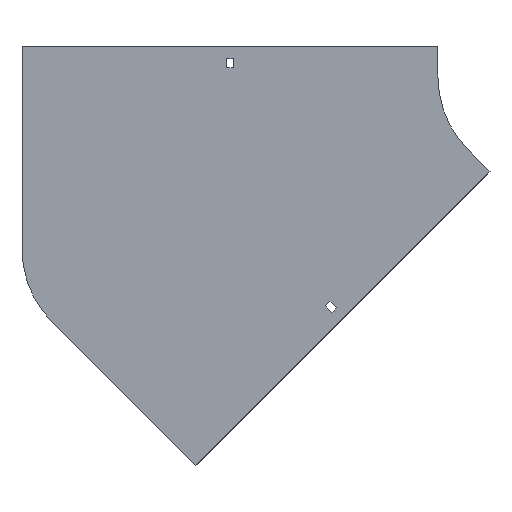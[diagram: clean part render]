
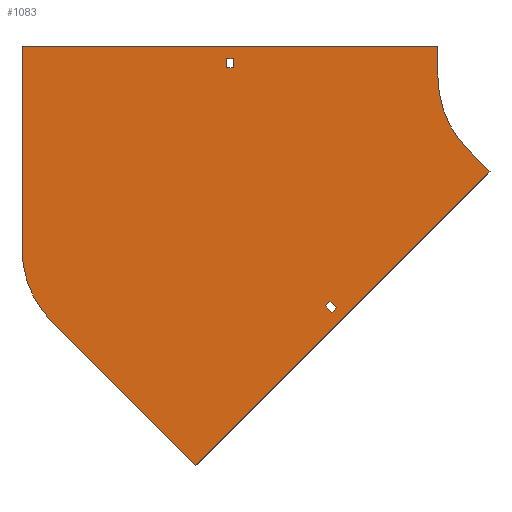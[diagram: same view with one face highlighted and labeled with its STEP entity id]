
A CAD part, front view. The second image highlights one B-rep face of the part: STEP entity #1083.
In plain terms, the highlighted planar face has unit normal (0, -1, 0).
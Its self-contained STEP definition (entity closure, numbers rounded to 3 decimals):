
#9 = CARTESIAN_POINT ( 'NONE',  ( -305.25, 0., 18. ) ) ;
#12 = VERTEX_POINT ( 'NONE', #264 ) ;
#24 = VECTOR ( 'NONE', #770, 1000. ) ;
#43 = LINE ( 'NONE', #1112, #1780 ) ;
#45 = ORIENTED_EDGE ( 'NONE', *, *, #1464, .F. ) ;
#53 = ORIENTED_EDGE ( 'NONE', *, *, #855, .F. ) ;
#58 = CARTESIAN_POINT ( 'NONE',  ( -335.169, 0., -377.595 ) ) ;
#99 = DIRECTION ( 'NONE',  ( 0., 0., -1. ) ) ;
#109 = CARTESIAN_POINT ( 'NONE',  ( -204.884, 0., -217.612 ) ) ;
#168 = ORIENTED_EDGE ( 'NONE', *, *, #1199, .T. ) ;
#192 = EDGE_CURVE ( 'NONE', #1694, #1567, #1197, .T. ) ;
#197 = VERTEX_POINT ( 'NONE', #329 ) ;
#206 = ORIENTED_EDGE ( 'NONE', *, *, #297, .F. ) ;
#213 = LINE ( 'NONE', #1110, #1499 ) ;
#215 = DIRECTION ( 'NONE',  ( 0.707, 0., 0.707 ) ) ;
#264 = CARTESIAN_POINT ( 'NONE',  ( -504., 0., -167.342 ) ) ;
#265 = EDGE_CURVE ( 'NONE', #1649, #490, #1089, .T. ) ;
#297 = EDGE_CURVE ( 'NONE', #12, #1429, #43, .T. ) ;
#306 = ORIENTED_EDGE ( 'NONE', *, *, #1239, .F. ) ;
#329 = CARTESIAN_POINT ( 'NONE',  ( -474.711, 0., -238.053 ) ) ;
#334 = EDGE_CURVE ( 'NONE', #1149, #1390, #1561, .T. ) ;
#336 = AXIS2_PLACEMENT_3D ( 'NONE', #1572, #1879, #99 ) ;
#357 = PLANE ( 'NONE',  #336 ) ;
#381 = ORIENTED_EDGE ( 'NONE', *, *, #1168, .F. ) ;
#389 = EDGE_CURVE ( 'NONE', #1618, #1338, #904, .T. ) ;
#479 = EDGE_CURVE ( 'NONE', #1627, #1108, #1234, .T. ) ;
#490 = VERTEX_POINT ( 'NONE', #1835 ) ;
#491 = VECTOR ( 'NONE', #1228, 1000. ) ;
#520 = EDGE_LOOP ( 'NONE', ( #1772, #206, #1206, #306, #679, #381, #53, #1564 ) ) ;
#524 = DIRECTION ( 'NONE',  ( 0., 0., -1. ) ) ;
#563 = AXIS2_PLACEMENT_3D ( 'NONE', #1014, #1612, #1640 ) ;
#564 = VECTOR ( 'NONE', #1488, 1000. ) ;
#587 = CIRCLE ( 'NONE', #563, 100. ) ;
#622 = DIRECTION ( 'NONE',  ( -1., 0., 0. ) ) ;
#648 = ORIENTED_EDGE ( 'NONE', *, *, #1711, .T. ) ;
#656 = CARTESIAN_POINT ( 'NONE',  ( -70.711, 0., -70.711 ) ) ;
#658 = VECTOR ( 'NONE', #622, 1000. ) ;
#672 = LINE ( 'NONE', #797, #1349 ) ;
#674 = FACE_OUTER_BOUND ( 'NONE', #520, .T. ) ;
#679 = ORIENTED_EDGE ( 'NONE', *, *, #479, .F. ) ;
#686 = CARTESIAN_POINT ( 'NONE',  ( -298.75, 0., 18. ) ) ;
#687 = VECTOR ( 'NONE', #1402, 1000. ) ;
#699 = EDGE_CURVE ( 'NONE', #1429, #1649, #1365, .T. ) ;
#770 = DIRECTION ( 'NONE',  ( 1., 0., 0. ) ) ;
#788 = DIRECTION ( 'NONE',  ( -0.707, 0., -0.707 ) ) ;
#790 = EDGE_LOOP ( 'NONE', ( #1220, #1345, #168, #648 ) ) ;
#797 = CARTESIAN_POINT ( 'NONE',  ( -204.884, 0., -217.612 ) ) ;
#801 = CARTESIAN_POINT ( 'NONE',  ( -504., 0., 30. ) ) ;
#834 = CARTESIAN_POINT ( 'NONE',  ( -305.25, 0., 9. ) ) ;
#854 = DIRECTION ( 'NONE',  ( 0., -1., 0. ) ) ;
#855 = EDGE_CURVE ( 'NONE', #490, #1937, #1528, .T. ) ;
#885 = EDGE_CURVE ( 'NONE', #197, #12, #587, .T. ) ;
#904 = LINE ( 'NONE', #1195, #1755 ) ;
#908 = CARTESIAN_POINT ( 'NONE',  ( -504., 0., 30. ) ) ;
#937 = LINE ( 'NONE', #1834, #658 ) ;
#959 = LINE ( 'NONE', #834, #687 ) ;
#962 = CARTESIAN_POINT ( 'NONE',  ( 0., 0., 0. ) ) ;
#972 = CARTESIAN_POINT ( 'NONE',  ( -298.75, 0., 9. ) ) ;
#984 = FACE_BOUND ( 'NONE', #1200, .T. ) ;
#1013 = CARTESIAN_POINT ( 'NONE',  ( -49.497, 0., -91.924 ) ) ;
#1014 = CARTESIAN_POINT ( 'NONE',  ( -404., 0., -167.342 ) ) ;
#1047 = CARTESIAN_POINT ( 'NONE',  ( -305.25, 0., 18. ) ) ;
#1058 = VECTOR ( 'NONE', #524, 1000. ) ;
#1059 = CARTESIAN_POINT ( 'NONE',  ( -209.48, 0., -222.208 ) ) ;
#1083 = ADVANCED_FACE ( 'NONE', ( #1592, #674, #984 ), #357, .T. ) ;
#1089 = LINE ( 'NONE', #1543, #1058 ) ;
#1091 = VECTOR ( 'NONE', #1825, 1000. ) ;
#1107 = CARTESIAN_POINT ( 'NONE',  ( -203.116, 0., -228.572 ) ) ;
#1108 = VERTEX_POINT ( 'NONE', #58 ) ;
#1110 = CARTESIAN_POINT ( 'NONE',  ( -209.48, 0., -222.208 ) ) ;
#1112 = CARTESIAN_POINT ( 'NONE',  ( -504., 0., -167.342 ) ) ;
#1134 = EDGE_CURVE ( 'NONE', #1737, #1694, #959, .T. ) ;
#1142 = VERTEX_POINT ( 'NONE', #1269 ) ;
#1149 = VERTEX_POINT ( 'NONE', #1107 ) ;
#1154 = VECTOR ( 'NONE', #215, 1000. ) ;
#1168 = EDGE_CURVE ( 'NONE', #1937, #1627, #1869, .T. ) ;
#1195 = CARTESIAN_POINT ( 'NONE',  ( -209.48, 0., -222.208 ) ) ;
#1197 = LINE ( 'NONE', #9, #491 ) ;
#1199 = EDGE_CURVE ( 'NONE', #1567, #1142, #1717, .T. ) ;
#1200 = EDGE_LOOP ( 'NONE', ( #1895, #45, #1662, #1512 ) ) ;
#1206 = ORIENTED_EDGE ( 'NONE', *, *, #885, .F. ) ;
#1220 = ORIENTED_EDGE ( 'NONE', *, *, #1134, .T. ) ;
#1228 = DIRECTION ( 'NONE',  ( 1., 0., 0. ) ) ;
#1234 = LINE ( 'NONE', #1674, #1091 ) ;
#1239 = EDGE_CURVE ( 'NONE', #1108, #197, #1631, .T. ) ;
#1258 = DIRECTION ( 'NONE',  ( 0.707, 0., -0.707 ) ) ;
#1262 = DIRECTION ( 'NONE',  ( 0., 0., 1. ) ) ;
#1269 = CARTESIAN_POINT ( 'NONE',  ( -298.75, 0., 9. ) ) ;
#1272 = DIRECTION ( 'NONE',  ( 0.707, 0., -0.707 ) ) ;
#1338 = VERTEX_POINT ( 'NONE', #1059 ) ;
#1345 = ORIENTED_EDGE ( 'NONE', *, *, #192, .T. ) ;
#1349 = VECTOR ( 'NONE', #1877, 1000. ) ;
#1365 = LINE ( 'NONE', #908, #24 ) ;
#1390 = VERTEX_POINT ( 'NONE', #1838 ) ;
#1396 = CARTESIAN_POINT ( 'NONE',  ( -203.116, 0., -228.572 ) ) ;
#1402 = DIRECTION ( 'NONE',  ( 0., 0., 1. ) ) ;
#1429 = VERTEX_POINT ( 'NONE', #801 ) ;
#1445 = DIRECTION ( 'NONE',  ( 0., 0., -1. ) ) ;
#1464 = EDGE_CURVE ( 'NONE', #1338, #1149, #213, .T. ) ;
#1488 = DIRECTION ( 'NONE',  ( -0.707, 0., 0.707 ) ) ;
#1497 = VECTOR ( 'NONE', #1445, 1000. ) ;
#1499 = VECTOR ( 'NONE', #1272, 1000. ) ;
#1512 = ORIENTED_EDGE ( 'NONE', *, *, #1843, .F. ) ;
#1522 = CARTESIAN_POINT ( 'NONE',  ( -305.25, 0., 9. ) ) ;
#1528 = CIRCLE ( 'NONE', #1562, 100. ) ;
#1543 = CARTESIAN_POINT ( 'NONE',  ( -100., 0., 30. ) ) ;
#1561 = LINE ( 'NONE', #1396, #1154 ) ;
#1562 = AXIS2_PLACEMENT_3D ( 'NONE', #962, #854, #1798 ) ;
#1564 = ORIENTED_EDGE ( 'NONE', *, *, #265, .F. ) ;
#1567 = VERTEX_POINT ( 'NONE', #686 ) ;
#1572 = CARTESIAN_POINT ( 'NONE',  ( 0., 0., 0. ) ) ;
#1592 = FACE_BOUND ( 'NONE', #790, .T. ) ;
#1612 = DIRECTION ( 'NONE',  ( 0., 1., 0. ) ) ;
#1618 = VERTEX_POINT ( 'NONE', #109 ) ;
#1627 = VERTEX_POINT ( 'NONE', #1013 ) ;
#1631 = LINE ( 'NONE', #1941, #564 ) ;
#1640 = DIRECTION ( 'NONE',  ( 0., 0., 1. ) ) ;
#1649 = VERTEX_POINT ( 'NONE', #1787 ) ;
#1662 = ORIENTED_EDGE ( 'NONE', *, *, #389, .F. ) ;
#1674 = CARTESIAN_POINT ( 'NONE',  ( -49.497, 0., -91.924 ) ) ;
#1694 = VERTEX_POINT ( 'NONE', #1047 ) ;
#1711 = EDGE_CURVE ( 'NONE', #1142, #1737, #937, .T. ) ;
#1717 = LINE ( 'NONE', #972, #1497 ) ;
#1737 = VERTEX_POINT ( 'NONE', #1522 ) ;
#1755 = VECTOR ( 'NONE', #788, 1000. ) ;
#1772 = ORIENTED_EDGE ( 'NONE', *, *, #699, .F. ) ;
#1780 = VECTOR ( 'NONE', #1262, 1000. ) ;
#1786 = VECTOR ( 'NONE', #1258, 1000. ) ;
#1787 = CARTESIAN_POINT ( 'NONE',  ( -100., 0., 30. ) ) ;
#1798 = DIRECTION ( 'NONE',  ( 0., 0., -1. ) ) ;
#1825 = DIRECTION ( 'NONE',  ( -0.707, 0., -0.707 ) ) ;
#1834 = CARTESIAN_POINT ( 'NONE',  ( -305.25, 0., 9. ) ) ;
#1835 = CARTESIAN_POINT ( 'NONE',  ( -100., 0., 0. ) ) ;
#1838 = CARTESIAN_POINT ( 'NONE',  ( -198.52, 0., -223.976 ) ) ;
#1843 = EDGE_CURVE ( 'NONE', #1390, #1618, #672, .T. ) ;
#1869 = LINE ( 'NONE', #656, #1786 ) ;
#1877 = DIRECTION ( 'NONE',  ( -0.707, 0., 0.707 ) ) ;
#1879 = DIRECTION ( 'NONE',  ( 0., -1., 0. ) ) ;
#1895 = ORIENTED_EDGE ( 'NONE', *, *, #334, .F. ) ;
#1936 = CARTESIAN_POINT ( 'NONE',  ( -70.711, 0., -70.711 ) ) ;
#1937 = VERTEX_POINT ( 'NONE', #1936 ) ;
#1941 = CARTESIAN_POINT ( 'NONE',  ( -335.169, 0., -377.595 ) ) ;
